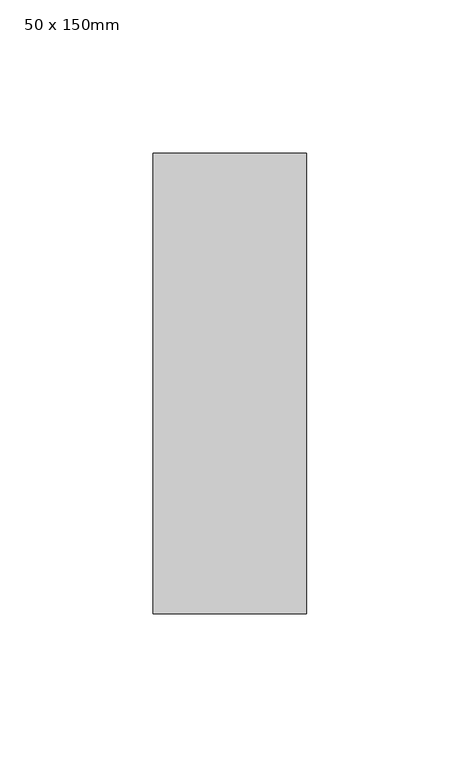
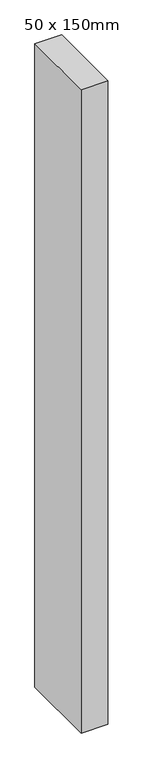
"""IFC4 building model written with IfcOpenShell, lengths in millimetres: member geometry, 矩形竖梃 : 50 x 150mm."""

from ifc_helpers import new_model, si_unit, frame, origin, place, context, project, spatial, polyline, outline, extrude, source, transform, mapped, element, save


def member_50_x_150mm_3493d22a(model_context):
    return source(origin(), model_context, "Body", "SweptSolid", [
        extrude(outline(polyline([(25.0, 75.0), (25.0, -75.0), (-25.0, -75.0), (-25.0, 75.0), (25.0, 75.0)])), frame((0.0, 0.0, -1276.0), z_axis=(0.0, 0.0, 1.0), x_axis=(1.0, 0.0, 0.0)), (0.0, 0.0, 1.0), 1276.0),
    ])


if __name__ == "__main__":
    model = new_model("IFC4")
    model_context = context("Model", 3, world=origin())
    ifc_project = project(units=[si_unit("LENGTHUNIT", "METRE", prefix="MILLI")], contexts=[model_context])
    site = spatial("IfcSite", under=ifc_project)
    building = spatial("IfcBuilding", under=site)
    placement = place(None, origin())
    member_50_x_150mm_shape = member_50_x_150mm_3493d22a(model_context)
    element("IfcMember", 1, ObjectType="矩形竖梃 : 50 x 150mm", at=placement, inside=building, context=model_context, shape_type="MappedRepresentation", body=[
        mapped(member_50_x_150mm_shape, transform((0.0, 0.0, 0.0), x_axis=(1.0, 0.0, 0.0), y_axis=(0.0, 1.0, 0.0), z_axis=(0.0, 0.0, 1.0))),
    ])
    save(model, "model.ifc")
